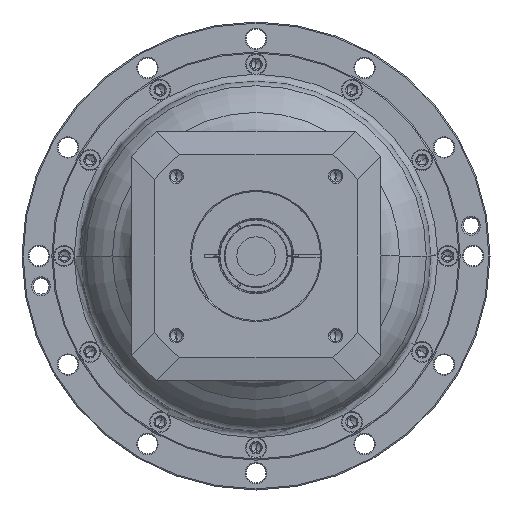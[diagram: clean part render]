
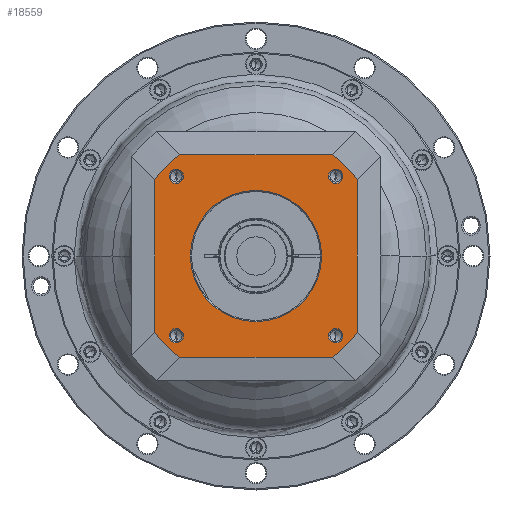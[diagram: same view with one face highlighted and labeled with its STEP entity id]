
A CAD part, left-side view. The second image highlights one B-rep face of the part: STEP entity #18559.
In plain terms, the highlighted planar face has unit normal (-1, 0, 0) as drawn and (0, 0, 1) by its records, which use the part's own axes.
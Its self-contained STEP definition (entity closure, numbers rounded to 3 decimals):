
#17332=CARTESIAN_POINT('',(0.,0.,
51.));
#17333=DIRECTION('',(0.,0.,-1.));
#17334=DIRECTION('',(0.,-1.,0.));
#17335=AXIS2_PLACEMENT_3D('',#17332,#17333,#17334);
#17337=CARTESIAN_POINT('',(0.,0.,51.));
#17338=DIRECTION('',(0.,0.,-1.));
#17339=DIRECTION('',(0.,1.,0.));
#17340=AXIS2_PLACEMENT_3D('',#17337,#17338,#17339);
#17342=DIRECTION('',(1.,0.,0.));
#17343=VECTOR('',#17342,135.);
#17344=CARTESIAN_POINT('',(-67.5,90.,51.));
#17345=LINE('',#17344,#17343);
#17346=CARTESIAN_POINT('',(0.,0.,51.));
#17347=DIRECTION('',(0.,0.,1.));
#17348=DIRECTION('',(0.8,0.6,0.));
#17349=AXIS2_PLACEMENT_3D('',#17346,#17347,#17348);
#17351=DIRECTION('',(0.,1.,0.));
#17352=VECTOR('',#17351,135.);
#17353=CARTESIAN_POINT('',(90.,-67.5,51.));
#17354=LINE('',#17353,#17352);
#17355=DIRECTION('',(1.,0.,0.));
#17356=VECTOR('',#17355,135.);
#17357=CARTESIAN_POINT('',(-67.5,-90.,51.));
#17358=LINE('',#17357,#17356);
#17359=CARTESIAN_POINT('',(0.,0.,51.));
#17360=DIRECTION('',(0.,0.,1.));
#17361=DIRECTION('',(-0.8,-0.6,0.));
#17362=AXIS2_PLACEMENT_3D('',#17359,#17360,#17361);
#17364=DIRECTION('',(0.,1.,0.));
#17365=VECTOR('',#17364,135.);
#17366=CARTESIAN_POINT('',(-90.,-67.5,51.));
#17367=LINE('',#17366,#17365);
#17382=CARTESIAN_POINT('',(0.,0.,51.));
#17383=DIRECTION('',(0.,0.,1.));
#17384=DIRECTION('',(-0.6,0.8,0.));
#17385=AXIS2_PLACEMENT_3D('',#17382,#17383,#17384);
#17392=CARTESIAN_POINT('',(0.,0.,51.));
#17393=DIRECTION('',(0.,0.,1.));
#17394=DIRECTION('',(0.6,-0.8,0.));
#17395=AXIS2_PLACEMENT_3D('',#17392,#17393,#17394);
#17409=CARTESIAN_POINT('',(-67.5,90.,51.));
#17501=CARTESIAN_POINT('',(90.,-67.5,51.));
#17529=CARTESIAN_POINT('',(67.5,-90.,51.));
#17569=CARTESIAN_POINT('',(-90.,67.5,51.));
#17578=CARTESIAN_POINT('',(-70.711,70.711,51.));
#17579=DIRECTION('',(0.,0.,1.));
#17580=DIRECTION('',(-1.,0.,0.));
#17581=AXIS2_PLACEMENT_3D('',#17578,#17579,#17580);
#17596=CARTESIAN_POINT('',(-70.711,70.711,51.));
#17597=DIRECTION('',(0.,0.,1.));
#17598=DIRECTION('',(1.,0.,0.));
#17599=AXIS2_PLACEMENT_3D('',#17596,#17597,#17598);
#17632=CARTESIAN_POINT('',(70.711,70.711,51.));
#17633=DIRECTION('',(0.,0.,1.));
#17634=DIRECTION('',(-1.,0.,0.));
#17635=AXIS2_PLACEMENT_3D('',#17632,#17633,#17634);
#17650=CARTESIAN_POINT('',(70.711,70.711,51.));
#17651=DIRECTION('',(0.,0.,1.));
#17652=DIRECTION('',(1.,0.,0.));
#17653=AXIS2_PLACEMENT_3D('',#17650,#17651,#17652);
#17686=CARTESIAN_POINT('',(70.711,-70.711,51.));
#17687=DIRECTION('',(0.,0.,1.));
#17688=DIRECTION('',(-1.,0.,0.));
#17689=AXIS2_PLACEMENT_3D('',#17686,#17687,#17688);
#17704=CARTESIAN_POINT('',(70.711,-70.711,51.));
#17705=DIRECTION('',(0.,0.,1.));
#17706=DIRECTION('',(1.,0.,0.));
#17707=AXIS2_PLACEMENT_3D('',#17704,#17705,#17706);
#17740=CARTESIAN_POINT('',(-70.711,-70.711,51.));
#17741=DIRECTION('',(0.,0.,1.));
#17742=DIRECTION('',(-1.,0.,0.));
#17743=AXIS2_PLACEMENT_3D('',#17740,#17741,#17742);
#17758=CARTESIAN_POINT('',(-70.711,-70.711,51.));
#17759=DIRECTION('',(0.,0.,1.));
#17760=DIRECTION('',(1.,0.,0.));
#17761=AXIS2_PLACEMENT_3D('',#17758,#17759,#17760);
#17848=CARTESIAN_POINT('',(-77.111,70.711,51.));
#17849=CARTESIAN_POINT('',(-64.311,70.711,51.));
#17850=VERTEX_POINT('',#17848);
#17851=VERTEX_POINT('',#17849);
#17874=CARTESIAN_POINT('',(-90.,-67.5,51.));
#17875=CARTESIAN_POINT('',(-67.5,-90.,51.));
#17876=VERTEX_POINT('',#17874);
#17877=VERTEX_POINT('',#17875);
#17878=CARTESIAN_POINT('',(90.,67.5,51.));
#17879=CARTESIAN_POINT('',(67.5,90.,51.));
#17880=VERTEX_POINT('',#17878);
#17881=VERTEX_POINT('',#17879);
#17890=VERTEX_POINT('',#17409);
#17893=VERTEX_POINT('',#17501);
#17894=VERTEX_POINT('',#17529);
#17897=VERTEX_POINT('',#17569);
#17906=CARTESIAN_POINT('',(77.111,70.711,51.));
#17907=CARTESIAN_POINT('',(64.311,70.711,51.));
#17908=VERTEX_POINT('',#17906);
#17909=VERTEX_POINT('',#17907);
#17914=CARTESIAN_POINT('',(77.111,-70.711,51.));
#17915=CARTESIAN_POINT('',(64.311,-70.711,51.));
#17916=VERTEX_POINT('',#17914);
#17917=VERTEX_POINT('',#17915);
#17922=CARTESIAN_POINT('',(-64.311,-70.711,51.));
#17923=CARTESIAN_POINT('',(-77.111,-70.711,51.));
#17924=VERTEX_POINT('',#17922);
#17925=VERTEX_POINT('',#17923);
#17930=CARTESIAN_POINT('',(0.,-58.15,51.));
#17931=CARTESIAN_POINT('',(0.,58.15,51.));
#17932=VERTEX_POINT('',#17930);
#17933=VERTEX_POINT('',#17931);
#18507=CARTESIAN_POINT('',(0.,0.,51.));
#18508=DIRECTION('',(0.,0.,1.));
#18509=DIRECTION('',(1.,0.,0.));
#18510=AXIS2_PLACEMENT_3D('',#18507,#18508,#18509);
#18511=PLANE('',#18510);
#18513=ORIENTED_EDGE('',*,*,#18512,.F.);
#18515=ORIENTED_EDGE('',*,*,#18514,.T.);
#18517=ORIENTED_EDGE('',*,*,#18516,.F.);
#18519=ORIENTED_EDGE('',*,*,#18518,.F.);
#18521=ORIENTED_EDGE('',*,*,#18520,.F.);
#18523=ORIENTED_EDGE('',*,*,#18522,.F.);
#18525=ORIENTED_EDGE('',*,*,#18524,.F.);
#18527=ORIENTED_EDGE('',*,*,#18526,.T.);
#18528=EDGE_LOOP('',(#18513,#18515,#18517,#18519,#18521,#18523,#18525,#18527));
#18529=FACE_OUTER_BOUND('',#18528,.F.);
#18531=ORIENTED_EDGE('',*,*,#18530,.F.);
#18532=ORIENTED_EDGE('',*,*,#18497,.F.);
#18533=EDGE_LOOP('',(#18531,#18532));
#18534=FACE_BOUND('',#18533,.F.);
#18536=ORIENTED_EDGE('',*,*,#18535,.T.);
#18538=ORIENTED_EDGE('',*,*,#18537,.T.);
#18539=EDGE_LOOP('',(#18536,#18538));
#18540=FACE_BOUND('',#18539,.F.);
#18542=ORIENTED_EDGE('',*,*,#18541,.T.);
#18544=ORIENTED_EDGE('',*,*,#18543,.T.);
#18545=EDGE_LOOP('',(#18542,#18544));
#18546=FACE_BOUND('',#18545,.F.);
#18548=ORIENTED_EDGE('',*,*,#18547,.T.);
#18550=ORIENTED_EDGE('',*,*,#18549,.T.);
#18551=EDGE_LOOP('',(#18548,#18550));
#18552=FACE_BOUND('',#18551,.F.);
#18554=ORIENTED_EDGE('',*,*,#18553,.T.);
#18556=ORIENTED_EDGE('',*,*,#18555,.T.);
#18557=EDGE_LOOP('',(#18554,#18556));
#18558=FACE_BOUND('',#18557,.F.);
#18559=ADVANCED_FACE('',(#18529,#18534,#18540,#18546,#18552,#18558),#18511,.T.);
#17336=CIRCLE('',#17335,58.15);
#17341=CIRCLE('',#17340,58.15);
#17350=CIRCLE('',#17349,112.5);
#17363=CIRCLE('',#17362,112.5);
#17386=CIRCLE('',#17385,112.5);
#17396=CIRCLE('',#17395,112.5);
#17582=CIRCLE('',#17581,6.4);
#17600=CIRCLE('',#17599,6.4);
#17636=CIRCLE('',#17635,6.4);
#17654=CIRCLE('',#17653,6.4);
#17690=CIRCLE('',#17689,6.4);
#17708=CIRCLE('',#17707,6.4);
#17744=CIRCLE('',#17743,6.4);
#17762=CIRCLE('',#17761,6.4);
#18497=EDGE_CURVE('',#17933,#17932,#17341,.T.);
#18512=EDGE_CURVE('',#17890,#17897,#17386,.T.);
#18514=EDGE_CURVE('',#17890,#17881,#17345,.T.);
#18516=EDGE_CURVE('',#17880,#17881,#17350,.T.);
#18518=EDGE_CURVE('',#17893,#17880,#17354,.T.);
#18520=EDGE_CURVE('',#17894,#17893,#17396,.T.);
#18522=EDGE_CURVE('',#17877,#17894,#17358,.T.);
#18524=EDGE_CURVE('',#17876,#17877,#17363,.T.);
#18526=EDGE_CURVE('',#17876,#17897,#17367,.T.);
#18530=EDGE_CURVE('',#17932,#17933,#17336,.T.);
#18535=EDGE_CURVE('',#17850,#17851,#17582,.T.);
#18537=EDGE_CURVE('',#17851,#17850,#17600,.T.);
#18541=EDGE_CURVE('',#17909,#17908,#17636,.T.);
#18543=EDGE_CURVE('',#17908,#17909,#17654,.T.);
#18547=EDGE_CURVE('',#17917,#17916,#17690,.T.);
#18549=EDGE_CURVE('',#17916,#17917,#17708,.T.);
#18553=EDGE_CURVE('',#17925,#17924,#17744,.T.);
#18555=EDGE_CURVE('',#17924,#17925,#17762,.T.);
